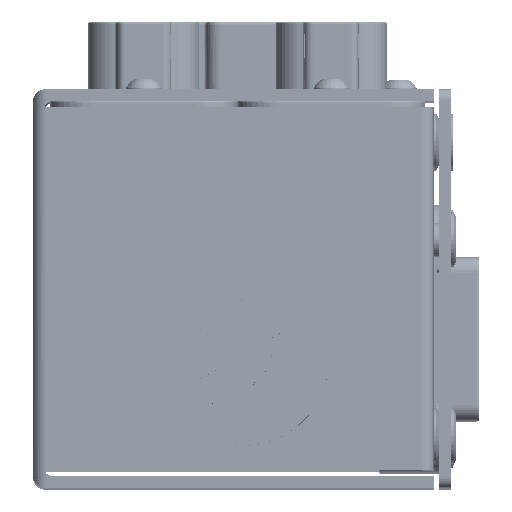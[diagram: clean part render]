
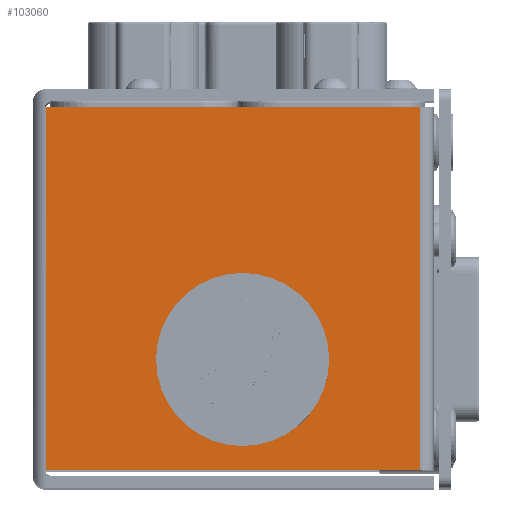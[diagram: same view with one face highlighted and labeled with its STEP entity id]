
A CAD part, top view. The second image highlights one B-rep face of the part: STEP entity #103060.
In plain terms, the highlighted planar face has unit normal (0, 0, 1) as drawn and (0, 0, -1) by its records, which use the part's own axes.
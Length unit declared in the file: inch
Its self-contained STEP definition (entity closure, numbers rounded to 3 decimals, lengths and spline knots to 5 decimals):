
#270 = VERTEX_POINT ( 'NONE', #43054 ) ;
#670 = EDGE_CURVE ( 'NONE', #31663, #270, #37241, .T. ) ;
#839 = CARTESIAN_POINT ( 'NONE',  ( -1.97992, 0., 0. ) ) ;
#3140 = AXIS2_PLACEMENT_3D ( 'NONE', #69917, #13519, #79381 ) ;
#3785 = LINE ( 'NONE', #839, #25814 ) ;
#10277 = DIRECTION ( 'NONE',  ( 0., 1., 0. ) ) ;
#11453 = CIRCLE ( 'NONE', #42728, 0.59 ) ;
#13519 = DIRECTION ( 'NONE',  ( 0., 0., -1. ) ) ;
#17028 = DIRECTION ( 'NONE',  ( 0., 0., -1. ) ) ;
#20499 = EDGE_CURVE ( 'NONE', #70205, #59623, #61379, .T. ) ;
#23803 = CARTESIAN_POINT ( 'NONE',  ( -0.07692, 0.05578, 0. ) ) ;
#25814 = VECTOR ( 'NONE', #10277, 39.37008 ) ;
#25877 = CARTESIAN_POINT ( 'NONE',  ( 0.78608, 1.92586, 0. ) ) ;
#31663 = VERTEX_POINT ( 'NONE', #25877 ) ;
#36169 = VERTEX_POINT ( 'NONE', #40259 ) ;
#37241 = LINE ( 'NONE', #49882, #106560 ) ;
#37979 = EDGE_CURVE ( 'NONE', #36169, #41075, #3785, .T. ) ;
#40259 = CARTESIAN_POINT ( 'NONE',  ( -1.97992, -0.76414, 0. ) ) ;
#41075 = VERTEX_POINT ( 'NONE', #93541 ) ;
#42728 = AXIS2_PLACEMENT_3D ( 'NONE', #73425, #17028, #82877 ) ;
#43054 = CARTESIAN_POINT ( 'NONE',  ( 0.78608, -0.76414, 0. ) ) ;
#45174 = ORIENTED_EDGE ( 'NONE', *, *, #121755, .T. ) ;
#48289 = LINE ( 'NONE', #90248, #67442 ) ;
#49882 = CARTESIAN_POINT ( 'NONE',  ( 0.78608, -0.79414, 0. ) ) ;
#55294 = CARTESIAN_POINT ( 'NONE',  ( 0., 0., 0. ) ) ;
#55613 = EDGE_CURVE ( 'NONE', #270, #36169, #48289, .T. ) ;
#56875 = VECTOR ( 'NONE', #91348, 39.37008 ) ;
#59623 = VERTEX_POINT ( 'NONE', #111606 ) ;
#61379 = CIRCLE ( 'NONE', #3140, 0.59 ) ;
#64789 = DIRECTION ( 'NONE',  ( -1., 0., 0. ) ) ;
#67442 = VECTOR ( 'NONE', #99701, 39.37008 ) ;
#69917 = CARTESIAN_POINT ( 'NONE',  ( -0.66692, 0.05578, 0. ) ) ;
#70205 = VERTEX_POINT ( 'NONE', #23803 ) ;
#71293 = FACE_BOUND ( 'NONE', #107395, .T. ) ;
#72739 = CARTESIAN_POINT ( 'NONE',  ( 0.79608, 1.92586, 0. ) ) ;
#73425 = CARTESIAN_POINT ( 'NONE',  ( -0.66692, 0.05578, 0. ) ) ;
#79381 = DIRECTION ( 'NONE',  ( -1., 0., 0. ) ) ;
#82877 = DIRECTION ( 'NONE',  ( -1., 0., 0. ) ) ;
#88576 = EDGE_CURVE ( 'NONE', #59623, #70205, #11453, .T. ) ;
#90248 = CARTESIAN_POINT ( 'NONE',  ( 0.79608, -0.76414, 0. ) ) ;
#90748 = AXIS2_PLACEMENT_3D ( 'NONE', #55294, #121271, #64789 ) ;
#91348 = DIRECTION ( 'NONE',  ( 1., 0., 0. ) ) ;
#91674 = ORIENTED_EDGE ( 'NONE', *, *, #55613, .T. ) ;
#92422 = ORIENTED_EDGE ( 'NONE', *, *, #37979, .T. ) ;
#93541 = CARTESIAN_POINT ( 'NONE',  ( -1.97992, 1.92586, 0. ) ) ;
#97453 = EDGE_LOOP ( 'NONE', ( #91674, #92422, #45174, #110417 ) ) ;
#99701 = DIRECTION ( 'NONE',  ( -1., 0., 0. ) ) ;
#103060 = ADVANCED_FACE ( 'NONE', ( #71293, #121436 ), #110955, .T. ) ;
#106560 = VECTOR ( 'NONE', #106793, 39.37008 ) ;
#106793 = DIRECTION ( 'NONE',  ( 0., -1., 0. ) ) ;
#107074 = LINE ( 'NONE', #72739, #56875 ) ;
#107395 = EDGE_LOOP ( 'NONE', ( #116037, #107764 ) ) ;
#107764 = ORIENTED_EDGE ( 'NONE', *, *, #20499, .F. ) ;
#110417 = ORIENTED_EDGE ( 'NONE', *, *, #670, .T. ) ;
#110955 = PLANE ( 'NONE',  #90748 ) ;
#111606 = CARTESIAN_POINT ( 'NONE',  ( -1.25692, 0.05578, 0. ) ) ;
#116037 = ORIENTED_EDGE ( 'NONE', *, *, #88576, .F. ) ;
#121271 = DIRECTION ( 'NONE',  ( 0., 0., -1. ) ) ;
#121436 = FACE_OUTER_BOUND ( 'NONE', #97453, .T. ) ;
#121755 = EDGE_CURVE ( 'NONE', #41075, #31663, #107074, .T. ) ;
